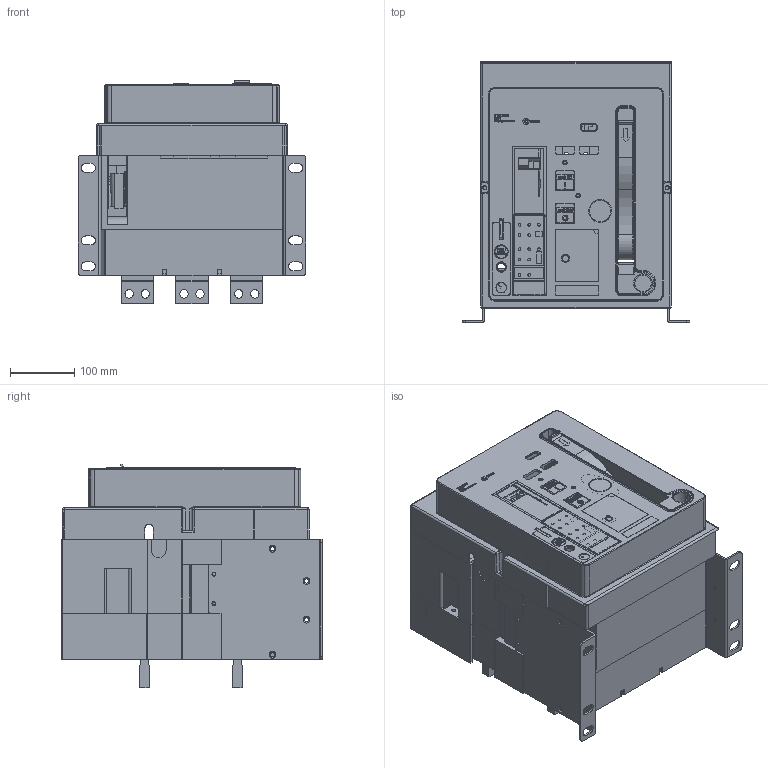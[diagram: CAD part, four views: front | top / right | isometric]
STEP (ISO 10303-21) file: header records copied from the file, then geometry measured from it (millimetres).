
FILE_DESCRIPTION((''),'2;1');
FILE_NAME('HG_01_A163H_FIX_ASM_ASM','2019-03-29T',('HHI'),(''),'PRO/ENGINEER BY PARAMETRIC TECHNOLOGY CORPORATION, 2012453','PRO/ENGINEER BY PARAMETRIC TECHNOLOGY CORPORATION, 2012453','');
FILE_SCHEMA(('CONFIG_CONTROL_DESIGN'));
Products named in the file (24): PRT0244; PRT0245; PRT0246; PRT0248; PRT0249; PRT0250; PRT0251; ASM0068_ASM; PRT0252; PRT0253; PRT0254; ASM0069_ASM; PRT0257; PRT0258; ASM0067_ASM; PRT0259; PRT0260; FIX_BODY_203_ASM_6_ASM; TERMINAL_16_6; A163H_FIX_ASM_4_ASM; HG_FRONT_COVER_20; 4AT-06477S03; 4AT-06477S04; HG_01_A163H_FIX_ASM_ASM
Assembly tree (30 placements, depth 6):
  HG_01_A163H_FIX_ASM_ASM
    A163H_FIX_ASM_4_ASM
      FIX_BODY_203_ASM_6_ASM
        PRT0244
        PRT0245
        PRT0246  x3
        ASM0067_ASM
          ASM0068_ASM
            PRT0248
            PRT0249
            PRT0250
            PRT0251
          ASM0069_ASM
            PRT0252
            PRT0253
            PRT0254
          PRT0257
          PRT0258
        PRT0259
        PRT0260
      TERMINAL_16_6  x6
    HG_FRONT_COVER_20
    4AT-06477S03
    4AT-06477S04
Bounding box: 353.4 x 404.4 x 346.23 mm (x, y, z)
Volume: 6415364.9 mm3; surface area: 2380801.6 mm2
Topology: 25 solids, 48 shells, 6820 faces, 19072 edges, 12526 vertices
Faces by surface type: plane 4306, cylinder 1858, torus 245, extrusion 175, cone 106, sphere 70, bspline 60
Entity records: 218241 total; most frequent: CARTESIAN_POINT 45270, ORIENTED_EDGE 36714, DIRECTION 34705, EDGE_CURVE 18500, VECTOR 13631, LINE 13456, VERTEX_POINT 12150, AXIS2_PLACEMENT_3D 10537
